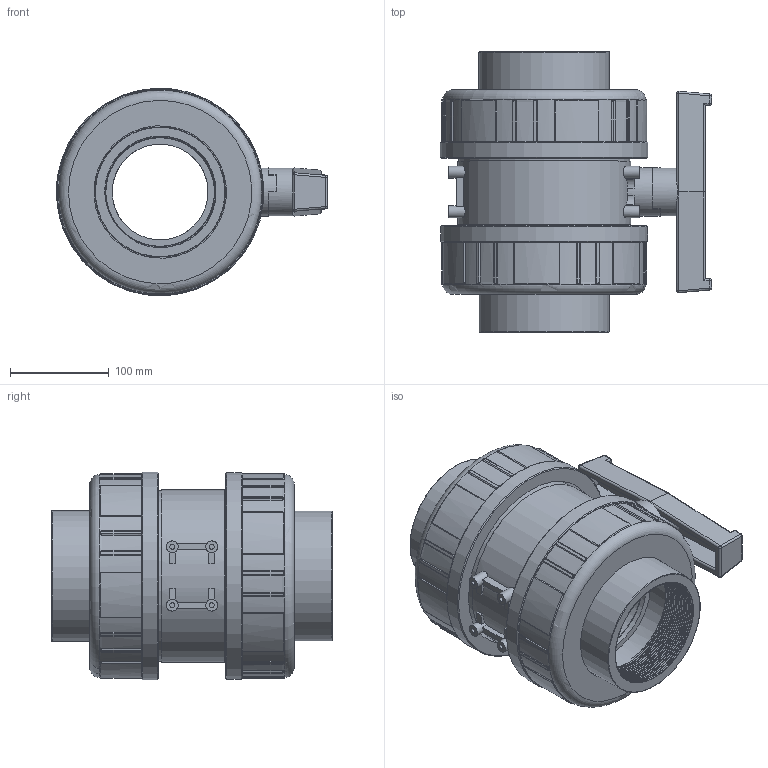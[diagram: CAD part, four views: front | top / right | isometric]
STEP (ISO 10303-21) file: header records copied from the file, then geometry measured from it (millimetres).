
FILE_DESCRIPTION(/* description */ (''),/* implementation_level */ '2;1');
FILE_NAME(/* name */ 'C:\Users\POLYPIPE\Desktop\DATASET INVENTOR\LIBRERIA EFFAST\3D_VALVOLE\3D_VALVOLE A SFERA\3D_BK1\3D_BERBK1E\3D_BERBK1E110L.stp',/* time_stamp */ '2018-01-23T17:21:53+01:00',/* author */ ('POLYPIPE'),/* organization */ (''),/* preprocessor_version */ 'ST-DEVELOPER v16.1',/* originating_system */ 'Autodesk Inventor 2016',/* authorisation */ '');
FILE_SCHEMA (('CONFIG_CONTROL_DESIGN'));
Products named in the file (1): 3D_BERBK1E110L
Bounding box: 274.48 x 284 x 209.97 mm (x, y, z)
Volume: 4918220.2 mm3; surface area: 602197 mm2
Topology: 3 solids, 4 shells, 598 faces, 1520 edges, 955 vertices
Faces by surface type: cylinder 218, plane 184, bspline 158, torus 22, sphere 12, cone 4
Full cylindrical faces by diameter (mm): 5 x8, 12 x8, 32 x1, 48.3 x1, 48.8 x1, 97 x3, 110.072 x2, 132 x2, 134.1 x2, 164 x2, 173 x2, 175 x1, 179.8 x2, 210 x2
Entity records: 74436 total; most frequent: CARTESIAN_POINT 60419, ORIENTED_EDGE 2910, DIRECTION 2514, EDGE_CURVE 1455, AXIS2_PLACEMENT_3D 970, VERTEX_POINT 939, EDGE_LOOP 678, STYLED_ITEM 601
